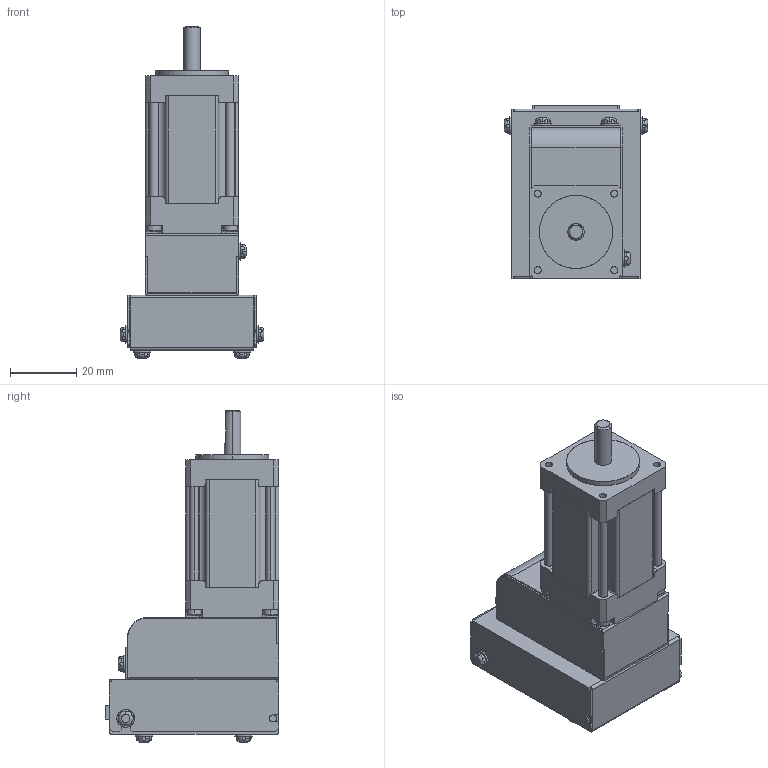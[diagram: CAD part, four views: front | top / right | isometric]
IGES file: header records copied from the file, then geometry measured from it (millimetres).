
Start section: SolidWorks IGES file using analytic representation for surfaces
Global section: file name: D:\Users\Ulrich\Documents\wichtig\CAD & Grafik\Coolmuscle Inc\CM1 Motors\sent 09-Oct-07\Coolmuscle Motor CM1-X-11L30.IGS; native system: SolidWorks 2007; preprocessor: SolidWorks 2007; author: Ulrich; date: 071009.151045; units: millimetre
Bounding box: 43.2 x 52.3 x 99.9 mm (x, y, z)
Surface area: 35457.1 mm2 (no closed solid volume)
Topology: 0 solids, 0 shells, 835 faces, 7607 edges, 7607 vertices
Faces by surface type: bspline 593, revolution 242
